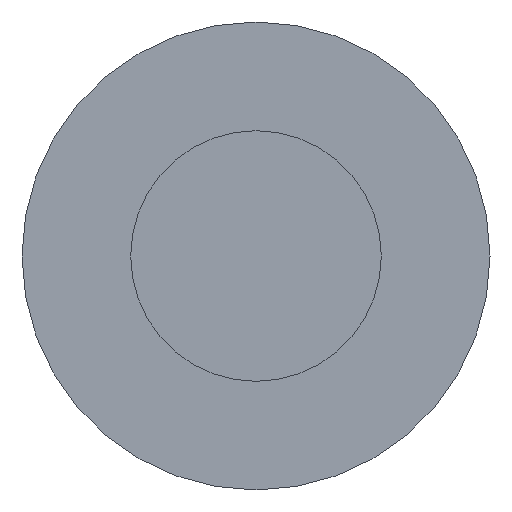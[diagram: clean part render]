
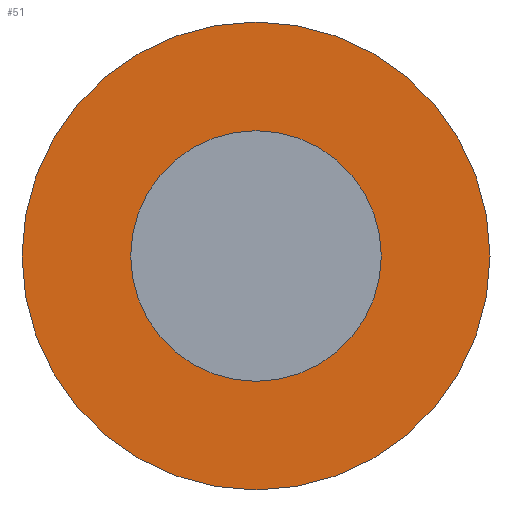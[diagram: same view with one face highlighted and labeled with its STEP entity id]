
A CAD part, front view. The second image highlights one B-rep face of the part: STEP entity #51.
In plain terms, the highlighted planar face has unit normal (0, -1, 0).
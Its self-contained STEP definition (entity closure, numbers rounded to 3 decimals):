
#16 = AXIS2_PLACEMENT_3D ( 'NONE', #196, #236, #237 ) ;
#17 = EDGE_CURVE ( 'NONE', #204, #198, #63, .T. ) ;
#21 = AXIS2_PLACEMENT_3D ( 'NONE', #185, #192, #214 ) ;
#22 = AXIS2_PLACEMENT_3D ( 'NONE', #178, #182, #180 ) ;
#24 = AXIS2_PLACEMENT_3D ( 'NONE', #170, #228, #183 ) ;
#27 = AXIS2_PLACEMENT_3D ( 'NONE', #222, #217, #230 ) ;
#38 = EDGE_CURVE ( 'NONE', #198, #204, #128, .T. ) ;
#42 = EDGE_CURVE ( 'NONE', #199, #212, #131, .T. ) ;
#48 = EDGE_CURVE ( 'NONE', #212, #199, #136, .T. ) ;
#51 = ADVANCED_FACE ( 'NONE', ( #125, #134 ), #235, .F. ) ;
#59 = ORIENTED_EDGE ( 'NONE', *, *, #42, .T. ) ;
#63 = CIRCLE ( 'NONE', #22, 1.875 ) ;
#80 = EDGE_LOOP ( 'NONE', ( #114, #59 ) ) ;
#86 = EDGE_LOOP ( 'NONE', ( #93, #94 ) ) ;
#93 = ORIENTED_EDGE ( 'NONE', *, *, #17, .F. ) ;
#94 = ORIENTED_EDGE ( 'NONE', *, *, #38, .F. ) ;
#114 = ORIENTED_EDGE ( 'NONE', *, *, #48, .T. ) ;
#125 = FACE_BOUND ( 'NONE', #86, .T. ) ;
#128 = CIRCLE ( 'NONE', #21, 1.875 ) ;
#131 = CIRCLE ( 'NONE', #27, 3.5 ) ;
#134 = FACE_OUTER_BOUND ( 'NONE', #80, .T. ) ;
#136 = CIRCLE ( 'NONE', #24, 3.5 ) ;
#170 = CARTESIAN_POINT ( 'NONE',  ( 0., 0.6, 0. ) ) ;
#178 = CARTESIAN_POINT ( 'NONE',  ( 0., 0.6, 0. ) ) ;
#180 = DIRECTION ( 'NONE',  ( 1., 0., 0. ) ) ;
#182 = DIRECTION ( 'NONE',  ( 0., -1., 0. ) ) ;
#183 = DIRECTION ( 'NONE',  ( 1., 0., 0. ) ) ;
#185 = CARTESIAN_POINT ( 'NONE',  ( 0., 0.6, 0. ) ) ;
#192 = DIRECTION ( 'NONE',  ( 0., -1., 0. ) ) ;
#196 = CARTESIAN_POINT ( 'NONE',  ( -3.5, 0.6, 0. ) ) ;
#198 = VERTEX_POINT ( 'NONE', #263 ) ;
#199 = VERTEX_POINT ( 'NONE', #261 ) ;
#204 = VERTEX_POINT ( 'NONE', #251 ) ;
#212 = VERTEX_POINT ( 'NONE', #238 ) ;
#214 = DIRECTION ( 'NONE',  ( 1., 0., 0. ) ) ;
#217 = DIRECTION ( 'NONE',  ( 0., -1., 0. ) ) ;
#222 = CARTESIAN_POINT ( 'NONE',  ( 0., 0.6, 0. ) ) ;
#228 = DIRECTION ( 'NONE',  ( 0., -1., 0. ) ) ;
#230 = DIRECTION ( 'NONE',  ( 1., 0., 0. ) ) ;
#235 = PLANE ( 'NONE',  #16 ) ;
#236 = DIRECTION ( 'NONE',  ( 0., 1., 0. ) ) ;
#237 = DIRECTION ( 'NONE',  ( -1., 0., 0. ) ) ;
#238 = CARTESIAN_POINT ( 'NONE',  ( 3.5, 0.6, 0. ) ) ;
#251 = CARTESIAN_POINT ( 'NONE',  ( 1.875, 0.6, 0. ) ) ;
#261 = CARTESIAN_POINT ( 'NONE',  ( -3.5, 0.6, 0. ) ) ;
#263 = CARTESIAN_POINT ( 'NONE',  ( -1.875, 0.6, 0. ) ) ;
